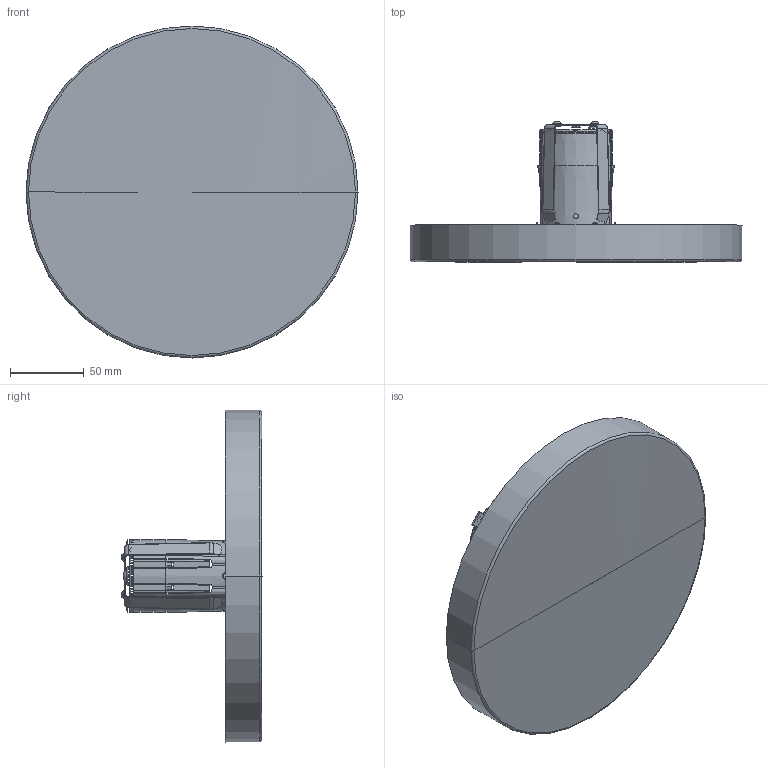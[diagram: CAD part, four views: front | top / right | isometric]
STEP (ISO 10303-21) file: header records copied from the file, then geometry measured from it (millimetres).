
FILE_DESCRIPTION((''),'2;1');
FILE_NAME('LINE-220-ZERO_SW0001','2025-06-30T12:16:11',('Piccioli'),(''),'CREO PARAMETRIC BY PTC INC, 2025010','CREO PARAMETRIC BY PTC INC, 2025010','');
FILE_SCHEMA(('CONFIG_CONTROL_DESIGN'));
Length unit declared in the file: millimetre
Products named in the file (1): LINE-220-ZERO_SW0001
Bounding box: 224.84 x 95.35 x 224.84 mm (x, y, z)
Surface area: 127001.9 mm2 (no closed solid volume)
Topology: 0 solids, 38 shells, 173 faces, 886 edges, 735 vertices
Faces by surface type: bspline 42, cone 40, plane 37, cylinder 24, torus 16, sphere 14
Entity records: 13762 total; most frequent: CARTESIAN_POINT 7488, DIRECTION 1208, ORIENTED_EDGE 1094, EDGE_CURVE 884, VERTEX_POINT 735, AXIS2_PLACEMENT_3D 495, CIRCLE 364, B_SPLINE_CURVE_WITH_KNOTS 302
